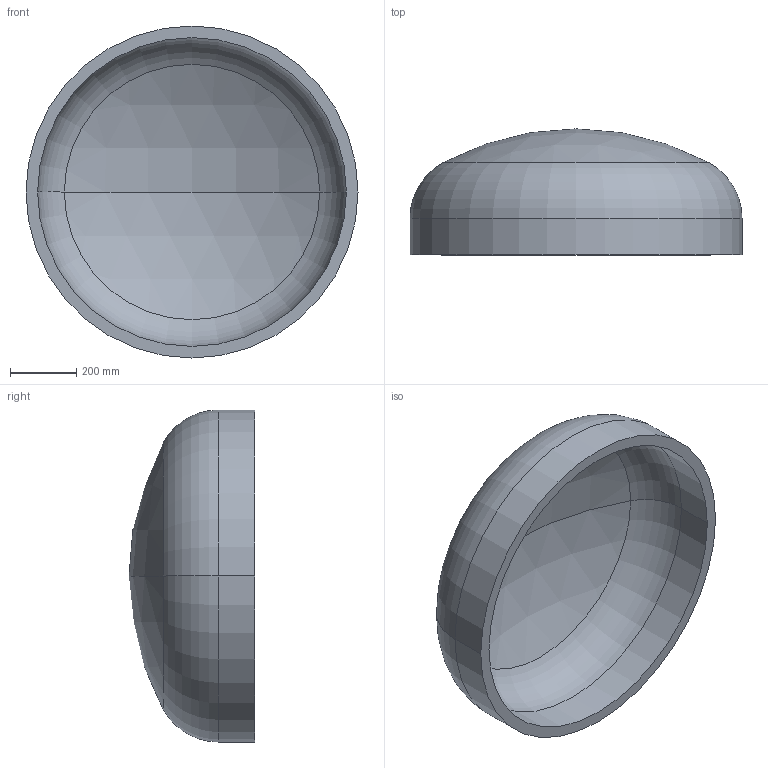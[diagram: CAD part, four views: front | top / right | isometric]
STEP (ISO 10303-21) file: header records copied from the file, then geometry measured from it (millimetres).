
FILE_DESCRIPTION (( 'STEP AP203' ), '1' );
FILE_NAME ('DIN 28013 Korbbogenform_-_Boden DIN 28013 - 1000 x 110 - I - s=35.step', '2016-07-01T08:47:37', ( '' ), ( '' ), 'SwSTEP 2.0', 'SolidWorks 2013', '' );
FILE_SCHEMA (( 'CONFIG_CONTROL_DESIGN' ));
Length unit declared in the file: millimetre
Products named in the file (1): DIN 28013 Korbbogenform_-_Boden DIN 28013 - 1000 x 110 - I - s=35
Bounding box: 1000 x 379.38 x 1000 mm (x, y, z)
Volume: 48096475.4 mm3; surface area: 2857042.3 mm2
Topology: 1 solids, 1 shells, 13 faces, 24 edges, 14 vertices
Faces by surface type: torus 4, cylinder 4, sphere 4, plane 1
Entity records: 407 total; most frequent: DIRECTION 72, CARTESIAN_POINT 52, ORIENTED_EDGE 48, AXIS2_PLACEMENT_3D 34, EDGE_CURVE 24, CIRCLE 20, EDGE_LOOP 14, VERTEX_POINT 14
